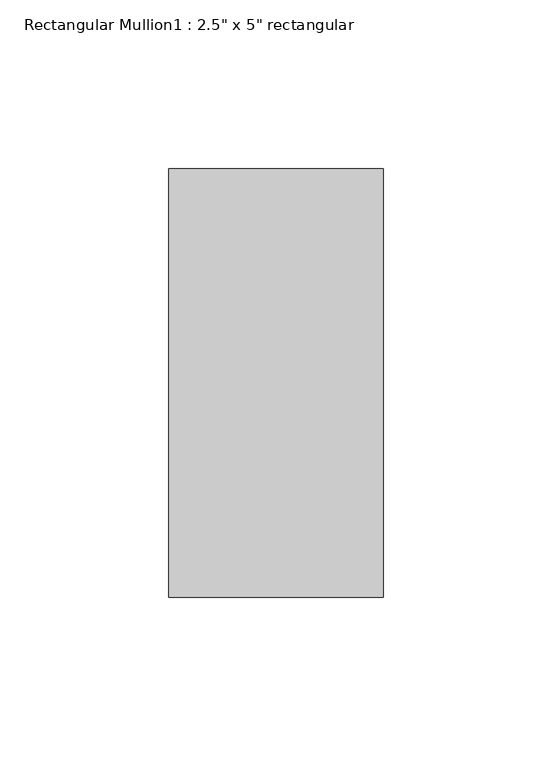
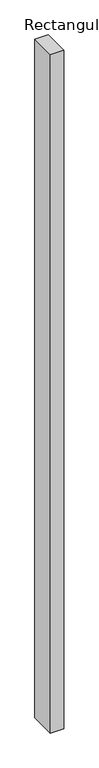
"""IFC4 building model written with IfcOpenShell, lengths in millimetres: member geometry."""

from ifc_helpers import new_model, si_unit, frame, origin, place, context, project, spatial, polyline, outline, extrude, source, transform, mapped, element, save


def member_7b18d258(model_context):
    return source(origin(), model_context, "Body", "SweptSolid", [
        extrude(outline(polyline([(31.75, 63.5), (31.75, -63.5), (-31.75, -63.5), (-31.75, 63.5), (31.75, 63.5)])), frame((0.0, 0.0, -3382.4333333), z_axis=(0.0, 0.0, 1.0), x_axis=(1.0, 0.0, 0.0)), (0.0, 0.0, 1.0), 3382.4333333),
    ])


if __name__ == "__main__":
    model = new_model("IFC4")
    model_context = context("Model", 3, world=origin())
    ifc_project = project(units=[si_unit("LENGTHUNIT", "METRE", prefix="MILLI")], contexts=[model_context])
    site = spatial("IfcSite", under=ifc_project)
    building = spatial("IfcBuilding", under=site)
    placement = place(None, origin())
    member_shape = member_7b18d258(model_context)
    element("IfcMember", 1, ObjectType="Rectangular Mullion1 : 2.5\" x 5\" rectangular", at=placement, inside=building, context=model_context, shape_type="MappedRepresentation", body=[
        mapped(member_shape, transform((0.0, 0.0, 0.0), x_axis=(1.0, 0.0, 0.0), y_axis=(0.0, 1.0, 0.0), z_axis=(0.0, 0.0, 1.0))),
    ])
    save(model, "model.ifc")
